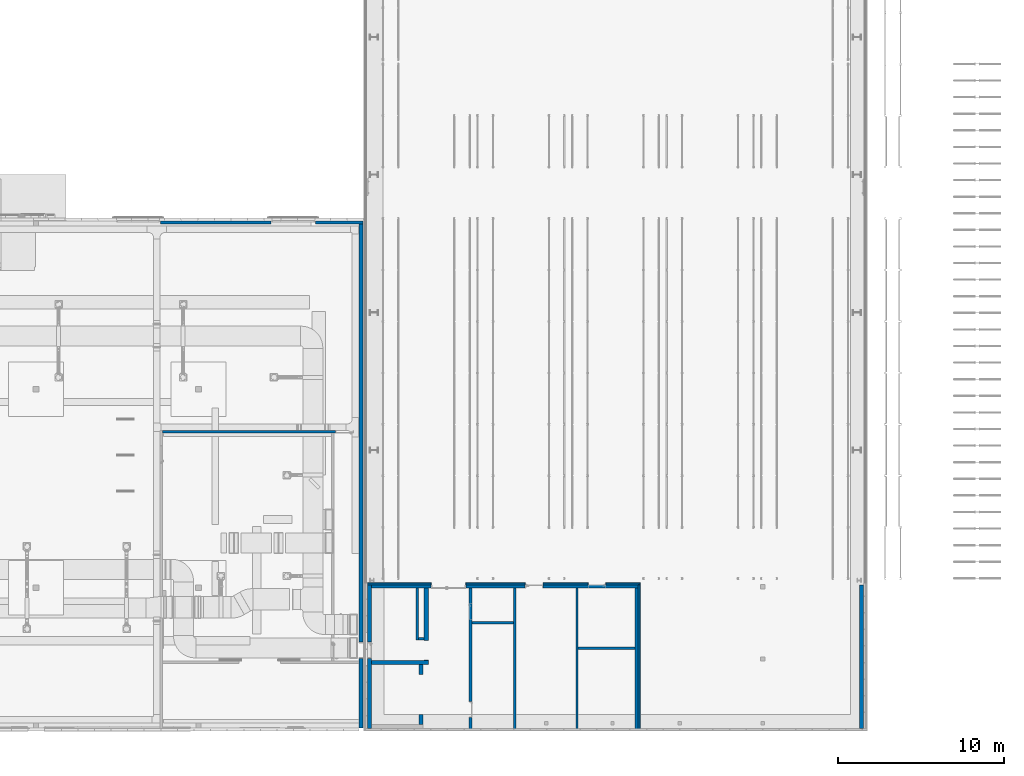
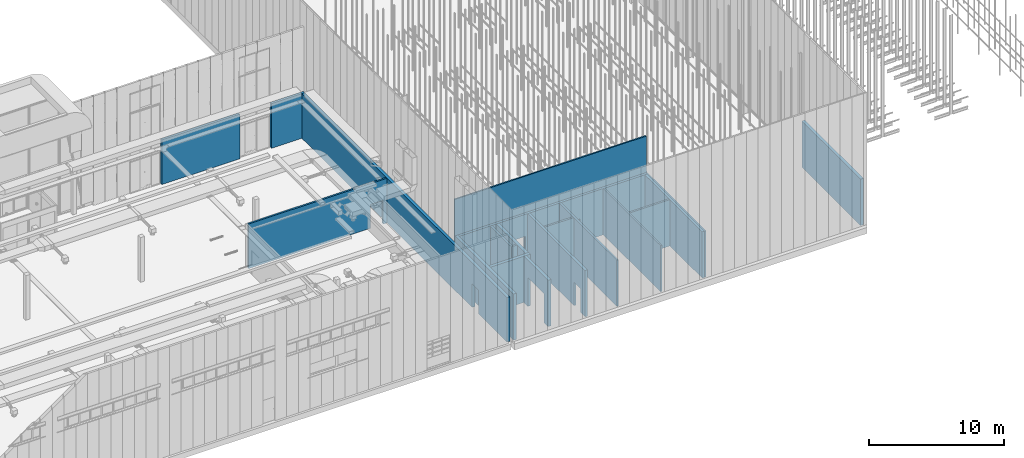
# One storey, part 210 of 302: 20 walls, 13 openings.
"""IFC2X3 building model written with IfcOpenShell, lengths in metres."""

from ifc_helpers import new_model, entity, si_unit, converted_unit, derived_unit, direction, frame, frame_2d, origin, place, context, subcontext, project, spatial, polyline, rectangle, extrude, clip, bounded_halfspace, material, layer, layer_set, layer_usage, type_object, element, save


model = new_model("IFC2X3")

# Units and contexts
model_context = context("Model", 3, precision=1e-05, world=origin(), true_north=direction((6.12303176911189e-17, 1.0)))
body_context = subcontext(model_context, "Body", "Model", "MODEL_VIEW")
ifc_project = project(units=[si_unit("LENGTHUNIT", "METRE"), si_unit("AREAUNIT", "SQUARE_METRE"), si_unit("VOLUMEUNIT", "CUBIC_METRE"), converted_unit("PLANEANGLEUNIT", "DEGREE", entity("IfcRatioMeasure", 0.0174532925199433), si_unit("PLANEANGLEUNIT", "RADIAN"), dimensions=[0, 0, 0, 0, 0, 0, 0]), si_unit("MASSUNIT", "GRAM", prefix="KILO"), derived_unit("MASSDENSITYUNIT", [(si_unit("MASSUNIT", "GRAM", prefix="KILO"), 1), (si_unit("LENGTHUNIT", "METRE"), -3)]), derived_unit("MOMENTOFINERTIAUNIT", [(si_unit("LENGTHUNIT", "METRE"), 4)]), si_unit("TIMEUNIT", "SECOND"), si_unit("FREQUENCYUNIT", "HERTZ"), si_unit("THERMODYNAMICTEMPERATUREUNIT", "DEGREE_CELSIUS"), derived_unit("THERMALTRANSMITTANCEUNIT", [(si_unit("MASSUNIT", "GRAM", prefix="KILO"), 1), (si_unit("THERMODYNAMICTEMPERATUREUNIT", "KELVIN"), -1), (si_unit("TIMEUNIT", "SECOND"), -3)]), derived_unit("VOLUMETRICFLOWRATEUNIT", [(si_unit("LENGTHUNIT", "METRE"), 3), (si_unit("TIMEUNIT", "SECOND"), -1)]), si_unit("ELECTRICCURRENTUNIT", "AMPERE"), si_unit("ELECTRICVOLTAGEUNIT", "VOLT"), si_unit("POWERUNIT", "WATT"), si_unit("FORCEUNIT", "NEWTON", prefix="KILO"), si_unit("ILLUMINANCEUNIT", "LUX"), si_unit("LUMINOUSFLUXUNIT", "LUMEN"), si_unit("LUMINOUSINTENSITYUNIT", "CANDELA"), derived_unit("USERDEFINED", [(si_unit("MASSUNIT", "GRAM", prefix="KILO"), -1), (si_unit("LENGTHUNIT", "METRE"), -2), (si_unit("TIMEUNIT", "SECOND"), 3), (si_unit("LUMINOUSFLUXUNIT", "LUMEN"), 1)]), derived_unit("LINEARVELOCITYUNIT", [(si_unit("LENGTHUNIT", "METRE"), 1), (si_unit("TIMEUNIT", "SECOND"), -1)]), si_unit("PRESSUREUNIT", "PASCAL"), derived_unit("USERDEFINED", [(si_unit("LENGTHUNIT", "METRE"), -2), (si_unit("MASSUNIT", "GRAM", prefix="KILO"), 1), (si_unit("TIMEUNIT", "SECOND"), -2)]), derived_unit("LINEARFORCEUNIT", [(si_unit("MASSUNIT", "GRAM", prefix="KILO"), 1), (si_unit("LENGTHUNIT", "METRE"), 1), (si_unit("TIMEUNIT", "SECOND"), -2), (si_unit("LENGTHUNIT", "METRE"), -1)]), derived_unit("PLANARFORCEUNIT", [(si_unit("MASSUNIT", "GRAM", prefix="KILO"), 1), (si_unit("LENGTHUNIT", "METRE"), 1), (si_unit("TIMEUNIT", "SECOND"), -2), (si_unit("LENGTHUNIT", "METRE"), -2)])], contexts=[model_context])

# Site, building, storey
site_placement = place(None, origin())
site = spatial("IfcSite", under=ifc_project, at=site_placement, Name="Default", CompositionType="ELEMENT")
building_placement = place(site_placement, origin())
building = spatial("IfcBuilding", under=site, at=building_placement, CompositionType="ELEMENT")
storey_placement = place(building_placement, frame((0.0, 0.0, -1.3)))
storey = spatial("IfcBuildingStorey", under=building, at=storey_placement, Name="00_EG", CompositionType="ELEMENT", Elevation=-1.3)

# Wall, openings
ifc_material_1 = material(Name="Concrete, Wand")
ifc_layer_1 = layer(ifc_material_1, 0.2)
ifc_layer_set_1 = layer_set([ifc_layer_1], Name="Basiswand:Betonwand innen 200cm")
ifc_layer_usage_1 = layer_usage(ifc_layer_set_1, "AXIS2", "NEGATIVE", 0.1)
wall_type_1 = type_object("IfcWallType", Name="Basiswand:Betonwand innen 200cm", PredefinedType="STANDARD", material=ifc_layer_set_1)
wall_1_placement = place(storey_placement, frame((-191.080111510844, 23.528088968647, 1.27), z_axis=(0.0, 0.0, 1.0), x_axis=(-1.0, 0.0, 0.0)))
wall_1 = element("IfcWallStandardCase", 1, at=wall_1_placement, inside=storey, type_object=wall_type_1, material=ifc_layer_usage_1, Name="Basiswand:Betonwand innen 200cm", ObjectType="Basiswand:Betonwand innen 200cm", context=body_context, shape_type="SweptSolid", body=[
    extrude(rectangle(XDim=16.05, YDim=0.199999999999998, at=frame_2d((8.025, 0.0), x_axis=(-1.0, 0.0))), origin(), (0.0, 0.0, 1.0), 4.18),
])
opening_1_placement = place(wall_1_placement, frame((6.79999999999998, 0.0999999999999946, -0.18)))
element("IfcOpeningElement", 2, at=opening_1_placement, cuts=wall_1, Name="TU DF 1 - Rahmenstock flächenbündig:Türe innen 1-Teilig 1.08 x 2.14:1", ObjectType="Opening", context=body_context, shape_type="SweptSolid", body=[
    extrude(rectangle(XDim=2.32, YDim=1.08, at=frame_2d((1.16, 0.540000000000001), x_axis=(-1.0, 0.0))), frame((0.0, 0.0, 0.0), z_axis=(0.0, -1.0, 0.0), x_axis=(0.0, 0.0, 1.0)), (0.0, 0.0, 1.0), 0.2),
])
opening_2_placement = place(wall_1_placement, frame((3.01499999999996, 0.299999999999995, -0.18)))
element("IfcOpeningElement", 3, at=opening_2_placement, cuts=wall_1, Name="TU DF 1 - Rahmenstock flächenbündig:Türe innen 1-Teilig 1.08 x 2.14:1", ObjectType="Opening", context=body_context, shape_type="SweptSolid", body=[
    extrude(rectangle(XDim=2.32, YDim=1.08, at=frame_2d((1.16, 0.540000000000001), x_axis=(-1.0, 0.0))), frame((0.0, 0.0, 0.0), z_axis=(0.0, -1.0, 0.0), x_axis=(0.0, 0.0, 1.0)), (0.0, 0.0, 1.0), 0.2),
])
opening_3_placement = place(wall_1_placement, frame((12.4649999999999, 0.0999999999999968, 0.0)))
element("IfcOpeningElement", 4, at=opening_3_placement, cuts=wall_1, Name="TU DF 2 - Rahmenstock Falztüre:Türe innen 2-Teilig 2.08 x 2.14:1", ObjectType="Opening", context=body_context, shape_type="SweptSolid", body=[
    extrude(rectangle(XDim=2.185, YDim=2.09, at=frame_2d((1.0925, 1.04500000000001), x_axis=(-1.0, 0.0))), frame((0.0, 0.0, 0.0), z_axis=(0.0, -1.0, 0.0), x_axis=(0.0, 0.0, 1.0)), (0.0, 0.0, 1.0), 0.2),
])

# Walls
ifc_layer_usage_2 = layer_usage(ifc_layer_set_1, "AXIS2", "NEGATIVE", 0.1)
wall_2_placement = place(storey_placement, frame((-191.180111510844, 14.938088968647, 1.27), z_axis=(0.0, 0.0, 1.0), x_axis=(0.0, 1.0, 0.0)))
element("IfcWallStandardCase", 5, at=wall_2_placement, inside=storey, type_object=wall_type_1, material=ifc_layer_usage_2, Name="Basiswand:Betonwand innen 200cm", ObjectType="Basiswand:Betonwand innen 200cm", context=body_context, shape_type="SweptSolid", body=[
    extrude(rectangle(XDim=8.49000000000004, YDim=0.200000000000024, at=frame_2d((4.24500000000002, 0.0), x_axis=(-1.0, 0.0))), origin(), (0.0, 0.0, 1.0), 4.18),
])
ifc_layer_2 = layer(ifc_material_1, 0.2)
ifc_layer_set_2 = layer_set([ifc_layer_2], Name="Basiswand:Betonwand aussen 200cm")
ifc_layer_usage_3 = layer_usage(ifc_layer_set_2, "AXIS2", "NEGATIVE", 0.1)
wall_type_2 = type_object("IfcWallType", Name="Basiswand:Betonwand aussen 200cm", PredefinedType="STANDARD", material=ifc_layer_set_2)
wall_3_placement = place(storey_placement, frame((-207.660111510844, 45.458088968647, 1.27), z_axis=(0.0, 0.0, 1.0), x_axis=(-1.0, 0.0, 0.0)))
element("IfcWallStandardCase", 6, at=wall_3_placement, inside=storey, type_object=wall_type_2, material=ifc_layer_usage_3, Name="Basiswand:Betonwand aussen 200cm", ObjectType="Basiswand:Betonwand aussen 200cm", context=body_context, shape_type="SweptSolid", body=[
    extrude(rectangle(XDim=2.84499999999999, YDim=0.200000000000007, at=frame_2d((1.4225, 2.47718512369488e-15), x_axis=(-1.0, 0.0))), origin(), (0.0, 0.0, 1.0), 4.03),
])
ifc_layer_usage_4 = layer_usage(ifc_layer_set_2, "AXIS2", "NEGATIVE", 0.1)
wall_4_placement = place(storey_placement, frame((-213.205111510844, 45.458088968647, 1.27), z_axis=(0.0, 0.0, 1.0), x_axis=(-1.0, 0.0, 0.0)))
element("IfcWallStandardCase", 7, at=wall_4_placement, inside=storey, type_object=wall_type_2, material=ifc_layer_usage_4, Name="Basiswand:Betonwand aussen 200cm", ObjectType="Basiswand:Betonwand aussen 200cm", context=body_context, shape_type="SweptSolid", body=[
    extrude(rectangle(XDim=6.64999999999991, YDim=0.200000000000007, at=frame_2d((3.32499999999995, 0.0), x_axis=(-1.0, 0.0))), origin(), (0.0, 0.0, 1.0), 4.03),
])

# Wall, opening
ifc_layer_3 = layer(ifc_material_1, 0.25)
ifc_layer_set_3 = layer_set([ifc_layer_3], Name="Basiswand:Betonwand innen 250cm")
ifc_layer_usage_5 = layer_usage(ifc_layer_set_3, "AXIS2", "NEGATIVE", 0.125)
wall_type_3 = type_object("IfcWallType", Name="Basiswand:Betonwand innen 250cm", PredefinedType="STANDARD", material=ifc_layer_set_3)
wall_5_placement = place(storey_placement, frame((-207.785111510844, 14.998088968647, 1.27), z_axis=(0.0, 0.0, 1.0), x_axis=(0.0, 1.0, 0.0)))
wall_5 = element("IfcWallStandardCase", 8, at=wall_5_placement, inside=storey, type_object=wall_type_3, material=ifc_layer_usage_5, Name="Basiswand:Betonwand innen 250cm", ObjectType="Basiswand:Betonwand innen 250cm", context=body_context, shape_type="SweptSolid", body=[
    extrude(rectangle(XDim=30.36, YDim=0.249999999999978, at=frame_2d((15.18, 0.0), x_axis=(-1.0, 0.0))), origin(), (0.0, 0.0, 1.0), 4.03),
])
opening_4_placement = place(wall_5_placement, origin())
element("IfcOpeningElement", 9, at=opening_4_placement, cuts=wall_5, Name="Basiswand:Betonwand innen 250cm", ObjectType="Opening", context=body_context, shape_type="SweptSolid", body=[
    extrude(rectangle(XDim=2.17, YDim=0.980000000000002, at=frame_2d((-2.16493489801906e-15, 0.0), x_axis=(0.0, 1.0))), frame((4.68499999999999, -1.92899999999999, 1.055), z_axis=(0.0, 1.0, 0.0), x_axis=(1.0, 0.0, 0.0)), (0.0, 0.0, 1.0), 3.048),
])

# Wall
ifc_layer_usage_6 = layer_usage(ifc_layer_set_3, "AXIS2", "NEGATIVE", 0.125)
wall_6_placement = place(storey_placement, frame((-203.720111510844, 18.933088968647, 1.27), z_axis=(0.0, 0.0, 1.0), x_axis=(-1.0, 0.0, 0.0)))
element("IfcWallStandardCase", 10, at=wall_6_placement, inside=storey, type_object=wall_type_3, material=ifc_layer_usage_6, Name="Basiswand:Betonwand innen 250cm", ObjectType="Basiswand:Betonwand innen 250cm", context=body_context, shape_type="SweptSolid", body=[
    extrude(rectangle(XDim=3.41000000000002, YDim=0.249999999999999, at=frame_2d((1.70500000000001, 0.0), x_axis=(-1.0, 0.0))), origin(), (0.0, 0.0, 1.0), 4.18),
])

# Wall, opening
ifc_layer_usage_7 = layer_usage(ifc_layer_set_3, "AXIS2", "NEGATIVE", 0.125)
wall_7_placement = place(storey_placement, frame((-204.155111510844, 18.808088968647, 1.27), z_axis=(0.0, 0.0, 1.0), x_axis=(0.0, -1.0, 0.0)))
wall_7 = element("IfcWallStandardCase", 11, at=wall_7_placement, inside=storey, type_object=wall_type_3, material=ifc_layer_usage_7, Name="Basiswand:Betonwand innen 250cm", ObjectType="Basiswand:Betonwand innen 250cm", context=body_context, shape_type="SweptSolid", body=[
    extrude(rectangle(XDim=3.6, YDim=0.249999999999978, at=frame_2d((1.8, 0.0), x_axis=(-1.0, 0.0))), origin(), (0.0, 0.0, 1.0), 4.18),
])
opening_5_placement = place(wall_7_placement, frame((18.808088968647, 204.155111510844, -1.27), z_axis=(0.0, 0.0, 1.0), x_axis=(0.0, 1.0, 0.0)))
element("IfcOpeningElement", 12, at=opening_5_placement, cuts=wall_7, Name="Basiswand:Betonwand innen 250cm", ObjectType="Opening", context=body_context, shape_type="SweptSolid", body=[
    extrude(rectangle(XDim=2.8, YDim=2.42, at=frame_2d((0.0, 0.0), x_axis=(0.0, 1.0))), frame((-205.804111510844, 17.008088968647, 2.49), z_axis=(1.0, 0.0, 0.0), x_axis=(0.0, 1.0, 0.0)), (0.0, 0.0, 1.0), 3.048),
])

ifc_layer_usage_8 = layer_usage(ifc_layer_set_3, "AXIS2", "NEGATIVE", 0.125)
wall_8_placement = place(storey_placement, frame((-203.845111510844, 23.428088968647, 1.27), z_axis=(0.0, 0.0, 1.0), x_axis=(0.0, -1.0, 0.0)))
wall_8 = element("IfcWallStandardCase", 13, at=wall_8_placement, inside=storey, type_object=wall_type_3, material=ifc_layer_usage_8, Name="Basiswand:Betonwand innen 250cm", ObjectType="Basiswand:Betonwand innen 250cm", context=body_context, shape_type="SweptSolid", body=[
    extrude(rectangle(XDim=4.37, YDim=0.249999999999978, at=frame_2d((2.185, 0.0), x_axis=(-1.0, 0.0))), origin(), (0.0, 0.0, 1.0), 4.18),
])
opening_6_placement = place(wall_8_placement, frame((23.428088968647, 203.845111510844, -1.27), z_axis=(0.0, 0.0, 1.0), x_axis=(0.0, 1.0, 0.0)))
element("IfcOpeningElement", 14, at=opening_6_placement, cuts=wall_8, Name="Basiswand:Betonwand innen 250cm", ObjectType="Opening", context=body_context, shape_type="SweptSolid", body=[
    extrude(rectangle(XDim=2.32, YDim=1.2, at=frame_2d((-1.11022302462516e-15, 0.0), x_axis=(0.0, 1.0))), frame((-205.494111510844, 19.683088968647, 2.25), z_axis=(1.0, 0.0, 0.0), x_axis=(0.0, 1.0, 0.0)), (0.0, 0.0, 1.0), 3.048),
])

ifc_layer_usage_9 = layer_usage(ifc_layer_set_3, "AXIS2", "NEGATIVE", 0.125)
wall_9_placement = place(storey_placement, frame((-207.255111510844, 23.628088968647, 1.27), z_axis=(0.0, 0.0, 1.0), x_axis=(0.0, -1.0, 0.0)))
wall_9 = element("IfcWallStandardCase", 15, at=wall_9_placement, inside=storey, type_object=wall_type_3, material=ifc_layer_usage_9, Name="Basiswand:Betonwand innen 250cm", ObjectType="Basiswand:Betonwand innen 250cm", context=body_context, shape_type="SweptSolid", body=[
    extrude(rectangle(XDim=8.67, YDim=0.249999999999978, at=frame_2d((4.335, 0.0), x_axis=(-1.0, 0.0))), origin(), (0.0, 0.0, 1.0), 4.18),
])
opening_7_placement = place(wall_9_placement, frame((4.43500000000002, 0.125000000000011, -0.0300000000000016)))
element("IfcOpeningElement", 16, at=opening_7_placement, cuts=wall_9, Name="TU DF 1 - Rahmenstock flächenbündig:Türe innen 1-Teilig 0.98 x 2.14:1", ObjectType="Opening", context=body_context, shape_type="SweptSolid", body=[
    extrude(rectangle(XDim=2.17, YDim=0.979999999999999, at=frame_2d((1.085, 0.490000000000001), x_axis=(-1.0, 0.0))), frame((0.0, 0.0, 0.0), z_axis=(0.0, -1.0, 0.0), x_axis=(0.0, 0.0, 1.0)), (0.0, 0.0, 1.0), 0.25),
])

# Walls
ifc_layer_usage_10 = layer_usage(ifc_layer_set_3, "AXIS2", "NEGATIVE", 0.125)
wall_10_placement = place(storey_placement, frame((-177.625111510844, 14.958088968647, 1.27), z_axis=(0.0, 0.0, 1.0), x_axis=(0.0, 1.0, 0.0)))
element("IfcWallStandardCase", 17, at=wall_10_placement, inside=storey, type_object=wall_type_3, material=ifc_layer_usage_10, Name="Basiswand:Betonwand innen 250cm", ObjectType="Basiswand:Betonwand innen 250cm", context=body_context, shape_type="SweptSolid", body=[
    extrude(rectangle(XDim=8.67000000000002, YDim=0.249999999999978, at=frame_2d((4.33500000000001, 0.0), x_axis=(-1.0, 0.0))), origin(), (0.0, 0.0, 1.0), 4.18),
])
ifc_material_2 = material(Name="Backstein")
ifc_layer_4 = layer(ifc_material_2, 0.125)
ifc_layer_set_4 = layer_set([ifc_layer_4], Name="Basiswand:Backstein innen 125cm")
ifc_layer_usage_11 = layer_usage(ifc_layer_set_4, "AXIS2", "NEGATIVE", 0.0625)
wall_type_4 = type_object("IfcWallType", Name="Basiswand:Backstein innen 125cm", PredefinedType="STANDARD", material=ifc_layer_set_4)
wall_11_placement = place(storey_placement, frame((-194.767611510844, 23.428088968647, 1.27), z_axis=(0.0, 0.0, 1.0), x_axis=(0.0, -1.0, 0.0)))
element("IfcWallStandardCase", 18, at=wall_11_placement, inside=storey, type_object=wall_type_4, material=ifc_layer_usage_11, Name="Basiswand:Backstein innen 125cm", ObjectType="Basiswand:Backstein innen 125cm", context=body_context, shape_type="SweptSolid", body=[
    extrude(rectangle(XDim=8.49000000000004, YDim=0.124999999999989, at=frame_2d((4.24500000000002, 0.0), x_axis=(-1.0, 0.0))), origin(), (0.0, 0.0, 1.0), 4.18),
])

# Wall, opening
ifc_layer_5 = layer(ifc_material_2, 0.15)
ifc_layer_set_5 = layer_set([ifc_layer_5], Name="Basiswand:Backstein innen 150cm")
ifc_layer_usage_12 = layer_usage(ifc_layer_set_5, "AXIS2", "NEGATIVE", 0.075)
wall_type_5 = type_object("IfcWallType", Name="Basiswand:Backstein innen 150cm", PredefinedType="STANDARD", material=ifc_layer_set_5)
wall_12_placement = place(storey_placement, frame((-207.910111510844, 32.8440889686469, 1.27), z_axis=(0.0, 0.0, 1.0), x_axis=(-1.0, 0.0, 0.0)))
wall_12 = element("IfcWallStandardCase", 19, at=wall_12_placement, inside=storey, type_object=wall_type_5, material=ifc_layer_usage_12, Name="Basiswand:Backstein innen 150cm", ObjectType="Basiswand:Backstein innen 150cm", context=body_context, shape_type="SweptSolid", body=[
    extrude(rectangle(XDim=11.825, YDim=0.150000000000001, at=frame_2d((5.91250000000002, 0.0), x_axis=(-1.0, 0.0))), origin(), (0.0, 0.0, 1.0), 4.03),
])
opening_8_placement = place(wall_12_placement, frame((1.40000000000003, 0.0749999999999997, -0.180000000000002)))
element("IfcOpeningElement", 20, at=opening_8_placement, cuts=wall_12, Name="TU DF 1 - Rahmenstock flächenbündig:Türe innen 1-Teilig 1.08 x 2.14:1", ObjectType="Opening", context=body_context, shape_type="SweptSolid", body=[
    extrude(rectangle(XDim=2.32, YDim=1.08, at=frame_2d((1.16, 0.540000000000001), x_axis=(-1.0, 0.0))), frame((0.0, 0.0, 0.0), z_axis=(0.0, -1.0, 0.0), x_axis=(0.0, 0.0, 1.0)), (0.0, 0.0, 1.0), 0.15),
])

# Walls
ifc_layer_usage_13 = layer_usage(ifc_layer_set_5, "AXIS2", "NEGATIVE", 0.075)
wall_13_placement = place(storey_placement, frame((-204.395111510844, 23.428088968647, 1.27), z_axis=(0.0, 0.0, 1.0), x_axis=(0.0, -1.0, 0.0)))
element("IfcWallStandardCase", 21, at=wall_13_placement, inside=storey, type_object=wall_type_5, material=ifc_layer_usage_13, Name="Basiswand:Backstein innen 150cm", ObjectType="Basiswand:Backstein innen 150cm", context=body_context, shape_type="SweptSolid", body=[
    extrude(rectangle(XDim=3.12, YDim=0.150000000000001, at=frame_2d((1.56, 0.0), x_axis=(-1.0, 0.0))), origin(), (0.0, 0.0, 1.0), 4.18),
])
ifc_layer_usage_14 = layer_usage(ifc_layer_set_5, "AXIS2", "NEGATIVE", 0.075)
wall_14_placement = place(storey_placement, frame((-203.970111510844, 20.383088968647, 1.27), z_axis=(0.0, 0.0, 1.0), x_axis=(-1.0, 0.0, 0.0)))
element("IfcWallStandardCase", 22, at=wall_14_placement, inside=storey, type_object=wall_type_5, material=ifc_layer_usage_14, Name="Basiswand:Backstein innen 150cm", ObjectType="Basiswand:Backstein innen 150cm", context=body_context, shape_type="SweptSolid", body=[
    extrude(rectangle(XDim=0.34999999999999, YDim=0.150000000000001, at=frame_2d((0.174999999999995, 0.0), x_axis=(-1.0, 0.0))), origin(), (0.0, 0.0, 1.0), 4.18),
])
ifc_layer_usage_15 = layer_usage(ifc_layer_set_5, "AXIS2", "NEGATIVE", 0.075)
wall_15_placement = place(storey_placement, frame((-198.505111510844, 23.428088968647, 1.27), z_axis=(0.0, 0.0, 1.0), x_axis=(0.0, -1.0, 0.0)))
element("IfcWallStandardCase", 23, at=wall_15_placement, inside=storey, type_object=wall_type_5, material=ifc_layer_usage_15, Name="Basiswand:Backstein innen 150cm", ObjectType="Basiswand:Backstein innen 150cm", context=body_context, shape_type="SweptSolid", body=[
    extrude(rectangle(XDim=8.49000000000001, YDim=0.150000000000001, at=frame_2d((4.24500000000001, 0.0), x_axis=(-1.0, 0.0))), origin(), (0.0, 0.0, 1.0), 4.18),
])
ifc_layer_usage_16 = layer_usage(ifc_layer_set_5, "AXIS2", "NEGATIVE", 0.075)
wall_16_placement = place(storey_placement, frame((-191.280111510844, 19.803088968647, 1.27), z_axis=(0.0, 0.0, 1.0), x_axis=(-1.0, 0.0, 0.0)))
element("IfcWallStandardCase", 24, at=wall_16_placement, inside=storey, type_object=wall_type_5, material=ifc_layer_usage_16, Name="Basiswand:Backstein innen 150cm", ObjectType="Basiswand:Backstein innen 150cm", context=body_context, shape_type="SweptSolid", body=[
    extrude(rectangle(XDim=3.42499999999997, YDim=0.150000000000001, at=frame_2d((1.71249999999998, 0.0), x_axis=(-1.0, 0.0))), origin(), (0.0, 0.0, 1.0), 4.18),
])
ifc_layer_usage_17 = layer_usage(ifc_layer_set_5, "AXIS2", "NEGATIVE", 0.075)
wall_17_placement = place(storey_placement, frame((-198.580111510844, 21.353088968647, 1.27), z_axis=(0.0, 0.0, 1.0), x_axis=(-1.0, 0.0, 0.0)))
element("IfcWallStandardCase", 25, at=wall_17_placement, inside=storey, type_object=wall_type_5, material=ifc_layer_usage_17, Name="Basiswand:Backstein innen 150cm", ObjectType="Basiswand:Backstein innen 150cm", context=body_context, shape_type="SweptSolid", body=[
    extrude(rectangle(XDim=2.50000000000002, YDim=0.150000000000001, at=frame_2d((1.25000000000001, 0.0), x_axis=(-1.0, 0.0))), origin(), (0.0, 0.0, 1.0), 4.18),
])

# Wall, openings
ifc_material_3 = material(Name="Prepainted_Steel-ArcelorMittal_Construction_HAIRULTRA-35-CORAL-4309-[RAL_3000]")
ifc_layer_6 = layer(ifc_material_3, 0.015)
ifc_material_4 = material(Name="ArcelorMittal-MineralWool")
ifc_layer_7 = layer(ifc_material_4, 0.105)
ifc_layer_set_6 = layer_set([ifc_layer_6, ifc_layer_7], Name="Basiswand:Sandwichpaneele d = 12cm innen")
ifc_layer_usage_18 = layer_usage(ifc_layer_set_6, "AXIS2", "POSITIVE", -0.06)
wall_type_6 = type_object("IfcWallType", Name="Basiswand:Sandwichpaneele d = 12cm innen", PredefinedType="STANDARD", material=ifc_layer_set_6)
wall_18_placement = place(storey_placement, frame((-190.960111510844, 23.688088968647, 1.27), z_axis=(0.0, 0.0, 1.0), x_axis=(-1.0, 0.0, 0.0)))
wall_18 = element("IfcWallStandardCase", 26, at=wall_18_placement, inside=storey, type_object=wall_type_6, material=ifc_layer_usage_18, Name="Basiswand:Sandwichpaneele d = 12cm innen", ObjectType="Basiswand:Sandwichpaneele d = 12cm innen", context=body_context, shape_type="Clipping", body=[
    clip(clip(extrude(rectangle(XDim=16.44, YDim=0.119999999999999, at=frame_2d((8.21999999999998, 0.0), x_axis=(-1.0, 0.0))), origin(), (0.0, 0.0, 1.0), 7.47), bounded_halfspace(frame((0.0599999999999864, -0.0600000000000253, 4.25), z_axis=(0.0, 0.0, -1.0), x_axis=(0.0, -1.0, 0.0)), True, frame((0.0599999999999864, -0.0600000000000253, 4.25), z_axis=(0.0, 0.0, -1.0), x_axis=(0.0, -1.0, 0.0)), polyline([(0.0, 0.0), (0.0, 0.0599999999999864), (-0.120000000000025, 0.0599999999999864), (-0.119999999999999, 0.0), (0.0, 0.0)]))), bounded_halfspace(frame((0.0599999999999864, 0.0599999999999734, 4.25), z_axis=(1.0, 0.0, 0.0), x_axis=(0.0, -1.0, 0.0)), True, frame((0.0599999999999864, 0.0599999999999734, 4.25), z_axis=(1.0, 0.0, 0.0), x_axis=(0.0, -1.0, 0.0)), polyline([(0.0, 0.0), (0.0, -3.22), (0.119999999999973, -3.22), (0.119999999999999, 0.0), (0.0, 0.0)]))),
])
opening_9_placement = place(wall_18_placement, origin())
element("IfcOpeningElement", 27, at=opening_9_placement, cuts=wall_18, Name="Basiswand:Sandwichpaneele d = 12cm innen", ObjectType="Opening", context=body_context, shape_type="SweptSolid", body=[
    extrude(rectangle(XDim=2.32, YDim=1.08, at=frame_2d((-1.73194791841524e-14, 0.0), x_axis=(0.0, 1.0))), frame((6.38000000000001, -1.26400000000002, 0.979999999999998), z_axis=(0.0, 1.0, 0.0), x_axis=(1.0, 0.0, 0.0)), (0.0, 0.0, 1.0), 3.048),
])
opening_10_placement = place(wall_18_placement, origin())
element("IfcOpeningElement", 28, at=opening_10_placement, cuts=wall_18, Name="Basiswand:Sandwichpaneele d = 12cm innen", ObjectType="Opening", context=body_context, shape_type="SweptSolid", body=[
    extrude(rectangle(XDim=2.32, YDim=1.08, at=frame_2d((0.0, 1.73194791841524e-14), x_axis=(1.0, 0.0))), frame((2.59499999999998, -1.26400000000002, 0.979999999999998), z_axis=(0.0, 1.0, 0.0), x_axis=(0.0, 0.0, -1.0)), (0.0, 0.0, 1.0), 3.048),
])
opening_11_placement = place(wall_18_placement, origin())
element("IfcOpeningElement", 29, at=opening_11_placement, cuts=wall_18, Name="Basiswand:Sandwichpaneele d = 12cm innen", ObjectType="Opening", context=body_context, shape_type="SweptSolid", body=[
    extrude(rectangle(XDim=2.185, YDim=2.09000000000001, at=frame_2d((0.0, 1.73194791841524e-14), x_axis=(1.0, 0.0))), frame((11.5399999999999, -1.46400000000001, 1.0925), z_axis=(0.0, 1.0, 0.0), x_axis=(0.0, 0.0, -1.0)), (0.0, 0.0, 1.0), 3.048),
])

# Wall
ifc_layer_usage_19 = layer_usage(ifc_layer_set_6, "AXIS2", "NEGATIVE", 0.06)
wall_19_placement = place(storey_placement, frame((-191.020111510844, 23.628088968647, 1.27), z_axis=(0.0, 0.0, 1.0), x_axis=(0.0, -1.0, 0.0)))
element("IfcWallStandardCase", 30, at=wall_19_placement, inside=storey, type_object=wall_type_6, material=ifc_layer_usage_19, Name="Basiswand:Sandwichpaneele d = 12cm innen", ObjectType="Basiswand:Sandwichpaneele d = 12cm innen", context=body_context, shape_type="SweptSolid", body=[
    extrude(rectangle(XDim=8.69000000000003, YDim=0.119999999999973, at=frame_2d((4.34500000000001, 0.0), x_axis=(-1.0, 0.0))), origin(), (0.0, 0.0, 1.0), 4.18),
])

# Wall, openings
ifc_layer_8 = layer(ifc_material_2, 0.2)
ifc_layer_set_7 = layer_set([ifc_layer_8], Name="Basiswand:Backstein innen 200cm")
ifc_layer_usage_20 = layer_usage(ifc_layer_set_7, "AXIS2", "NEGATIVE", 0.1)
wall_type_7 = type_object("IfcWallType", Name="Basiswand:Backstein innen 200cm", PredefinedType="STANDARD", material=ifc_layer_set_7)
wall_20_placement = place(storey_placement, frame((-201.180111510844, 23.428088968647, 1.27), z_axis=(0.0, 0.0, 1.0), x_axis=(0.0, -1.0, 0.0)))
wall_20 = element("IfcWallStandardCase", 31, at=wall_20_placement, inside=storey, type_object=wall_type_7, material=ifc_layer_usage_20, Name="Basiswand:Backstein innen 200cm", ObjectType="Basiswand:Backstein innen 200cm", context=body_context, shape_type="SweptSolid", body=[
    extrude(rectangle(XDim=8.49000000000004, YDim=0.200000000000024, at=frame_2d((4.24500000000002, 0.0), x_axis=(-1.0, 0.0))), origin(), (0.0, 0.0, 1.0), 4.18),
])
opening_12_placement = place(wall_20_placement, frame((1.9, 0.300000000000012, -0.180000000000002)))
element("IfcOpeningElement", 32, at=opening_12_placement, cuts=wall_20, Name="TU DF 1 - Rahmenstock flächenbündig:Türe innen 1-Teilig 0.98 x 2.14:1", ObjectType="Opening", context=body_context, shape_type="SweptSolid", body=[
    extrude(rectangle(XDim=2.32, YDim=0.979999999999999, at=frame_2d((1.16, 0.490000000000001), x_axis=(-1.0, 0.0))), frame((0.0, 0.0, 0.0), z_axis=(0.0, -1.0, 0.0), x_axis=(0.0, 0.0, 1.0)), (0.0, 0.0, 1.0), 0.2),
])
opening_13_placement = place(wall_20_placement, frame((7.81000000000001, 0.0999999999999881, -0.180000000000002)))
element("IfcOpeningElement", 33, at=opening_13_placement, cuts=wall_20, Name="TU DF 1 - Rahmenstock flächenbündig:Türe innen 1-Teilig 0.98 x 2.14:1", ObjectType="Opening", context=body_context, shape_type="SweptSolid", body=[
    extrude(rectangle(XDim=2.32, YDim=0.98, at=frame_2d((1.16, 0.49), x_axis=(-1.0, 0.0))), frame((0.0, 0.0, 0.0), z_axis=(0.0, -1.0, 0.0), x_axis=(0.0, 0.0, 1.0)), (0.0, 0.0, 1.0), 0.2),
])

save(model, "model.ifc")
